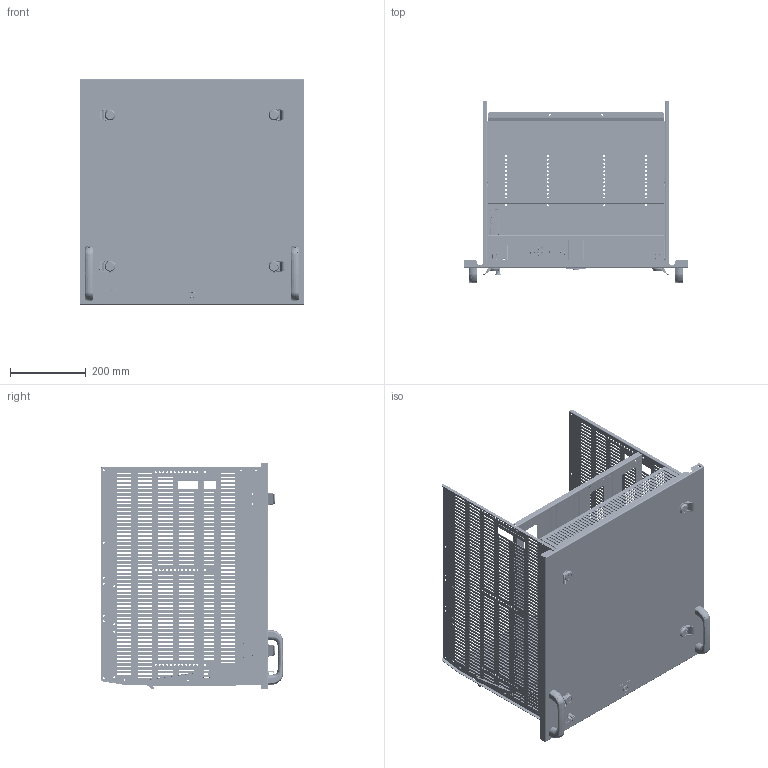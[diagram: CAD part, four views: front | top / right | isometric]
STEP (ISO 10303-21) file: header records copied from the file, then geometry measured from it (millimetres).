
FILE_DESCRIPTION(('CAx-IF Rec.Pracs.---Model Styling and Organization---1.2---2011-12-15','CAx-IF Rec.Pracs.---Geometric and Assembly Validation Properties---4.1---2014-06-16','CAx-IF Rec.Pracs.---PMI Polyline Presentation---2.0---2013-05-24'),'2;1');
FILE_NAME('R5M2W12M1B-L.stp','2021-05-05T12:42:09+03:00',(''),(''),'STEP Interface 4.4 by CT CoreTechnologie','3D_Evolution4.4 by CT CoreTechnologie','');
FILE_SCHEMA(('AUTOMOTIVE_DESIGN { 1 0 10303 214 1 1 1 1 }'));
Length unit declared in the file: millimetre
Products named in the file (74): R5M2W12M1B; M6x20 GOST 17475-80 (DIN 965)_stright; RB.1497.00.00.0 ÑÁ_-00; RB.1497.00.01.0_-00; RB.1497.00.02.0; RB.1497.00.04.0_-00; Ì4-GOST R 50273-92 (DIN 985)_stright DIN EN ISO 10511 - M4 - N; M5x10-GOST 11738-84 (DIN 912)_stright; RB.1419.00.02.0_-01; RB.1419.00.02.0_-02; RB.1497.00.06.0_-00; RB.1497.00.03.0_-00; M5x8-DIN7500C_stright; RB.1943.00.00.0_-05; RB.1499.00.04.0_-00; RB.1943.00.01.0_-05; M6 art.MGR-MKO-0625_2¬¬; RB.1499.00.02.0_-00; RB.1899.00.00.0 ÑÁ_-01; RB.1899.00.02.0_-01; RB.1899.00.01.0_-01; RB.1944.00.00.0_-05; RB.1499.00.04.0_-01; RB.1944.00.01.0_-05; 5.W28.004; RB.1945.00.00.0; RB.1946.00.00.0; RB.1942.00.00.0_-05; RB.1166.00.02.0_¢ à 1; RB.1166.00.03.0_-00; RB.1166.00.04.0_-00; PF 7x14 RAMmcc 2.0_121; Ì6õ12-A5100231_straight; RB.1166.00.05.0; PF 3.5x7 RAMmcc 2.0_00; RB.1942.00.01.0_-05; Ì6-GOST 5915-70 (DIN 934) (CM110600)_straight; RB.1505.00.00.1 ÑÁ; RB.1505.00.02.0; M5x12-DIN 7500M ISR_stright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
Assembly tree (121 placements, depth 5):
  R5M2W12M1B
    M6x20 GOST 17475-80 (DIN 965)_stright  x3
    RB.1497.00.00.0 ÑÁ_-00
      RB.1497.00.01.0_-00
      RB.1497.00.02.0
      RB.1497.00.04.0_-00
      Ì4-GOST R 50273-92 (DIN 985)_stright DIN EN ISO 10511 - M4 - N  x5
      M5x10-GOST 11738-84 (DIN 912)_stright  x2
      RB.1419.00.02.0_-01
      RB.1419.00.02.0_-02
      RB.1497.00.06.0_-00
      RB.1497.00.03.0_-00
      M5x8-DIN7500C_stright  x2
    RB.1943.00.00.0_-05
      RB.1499.00.04.0_-00
      RB.1943.00.01.0_-05
      M6 art.MGR-MKO-0625_2¬¬  x3
      RB.1499.00.02.0_-00  x3
    RB.1899.00.00.0 ÑÁ_-01
      RB.1899.00.02.0_-01  x3
      RB.1899.00.01.0_-01
    RB.1944.00.00.0_-05
      M6 art.MGR-MKO-0625_2¬¬  x3
      RB.1499.00.04.0_-01
      RB.1944.00.01.0_-05
    5.W28.004  x4
    RB.1945.00.00.0  x4
    RB.1946.00.00.0
    RB.1942.00.00.0_-05
      RB.1166.00.02.0_¢ à 1
      RB.1166.00.03.0_-00
      RB.1166.00.04.0_-00
      PF 7x14 RAMmcc 2.0_121
      Ì6õ12-A5100231_straight
      RB.1166.00.05.0  x3
      PF 3.5x7 RAMmcc 2.0_00
      RB.1942.00.01.0_-05
    Ì6-GOST 5915-70 (DIN 934) (CM110600)_straight
    RB.1505.00.00.1 ÑÁ
      RB.1505.00.02.0  x2
      Ì4-GOST R 50273-92 (DIN 985)_stright DIN EN ISO 10511 - M4 - N  x10
      M5x12-DIN 7500M ISR_stright  x6
      RB.1505.00.01.1
      RB.1504.00.00.1 ÑÁ
        RB.1504.00.01.1
        RB.1504.00.02.1_-01
        RB.1504.00.02.1_-00
        RB.1504.00.03.1
        RB.1504.01.00.0 ÑÁ
          RB.1504.01.01.0
      M6-DIN 985 (ISO 10511) (CM250600)_stright
      RB.1505.00.03.0_-00
      A.6.01-GOST 11371-78 (DIN 125A) (CM240600)_ ©¡  A.6.016  11371-78  x2
      RB.1513.00.00.0
      M5x8-DIN7500C_stright  x2
      RB.1505.00.04.0_-00
      RB.1503.00.00.0 ÑÁ
        RB.1503.00.06.0_-00
        RB.1503.00.07.0_-00
        RB.1503.00.01.0_-00
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Bounding box: 594 x 482.84 x 598.93 mm (x, y, z)
Surface area: 3159837.3 mm2 (no closed solid volume)
Topology: 0 solids, 170 shells, 8424 faces, 22863 edges, 14653 vertices
Faces by surface type: plane 5161, cylinder 1920, bspline 1343
Full cylindrical faces by diameter (mm): 3.2 x2
Entity records: 231147 total; most frequent: CARTESIAN_POINT 56919, ORIENTED_EDGE 35988, DIRECTION 33180, EDGE_CURVE 18026, VECTOR 14034, LINE 14034, VERTEX_POINT 11718, AXIS2_PLACEMENT_3D 9573
